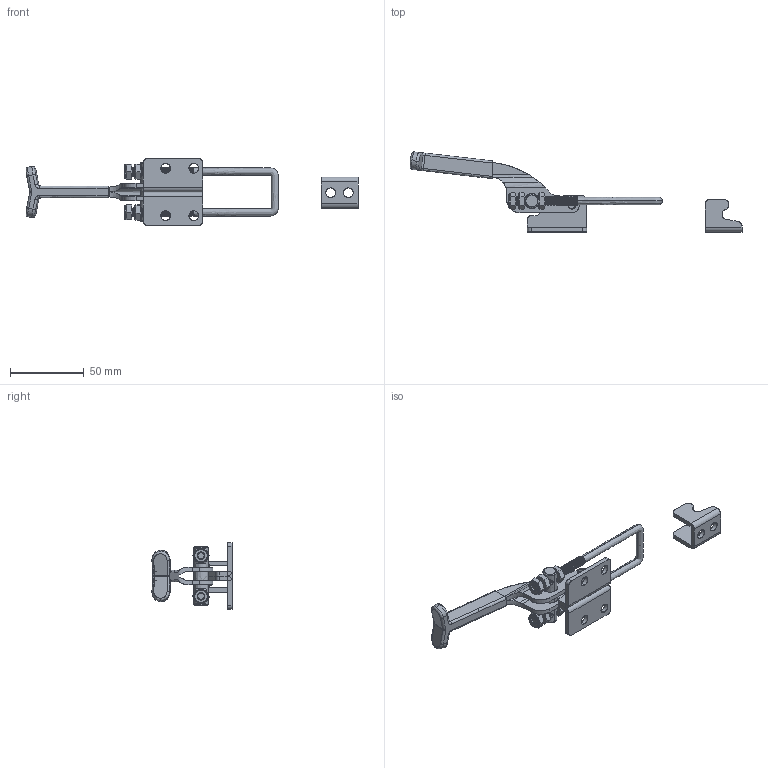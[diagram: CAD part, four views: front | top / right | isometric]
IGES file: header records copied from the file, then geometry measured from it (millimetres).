
Start section: SolidWorks IGES file using analytic representation for surfaces
Global section: file name: D:\尚坤工业图纸\SK3--搭扣系列\SK3-021-2\SK3-021-2.IGS; native system: SolidWorks 2015; preprocessor: SolidWorks 2015; author: admin; date: 180519.135132; units: millimetre
Bounding box: 224.38 x 54.15 x 45 mm (x, y, z)
Surface area: 31919.9 mm2 (no closed solid volume)
Topology: 0 solids, 0 shells, 586 faces, 9680 edges, 9680 vertices
Faces by surface type: revolution 369, bspline 217
